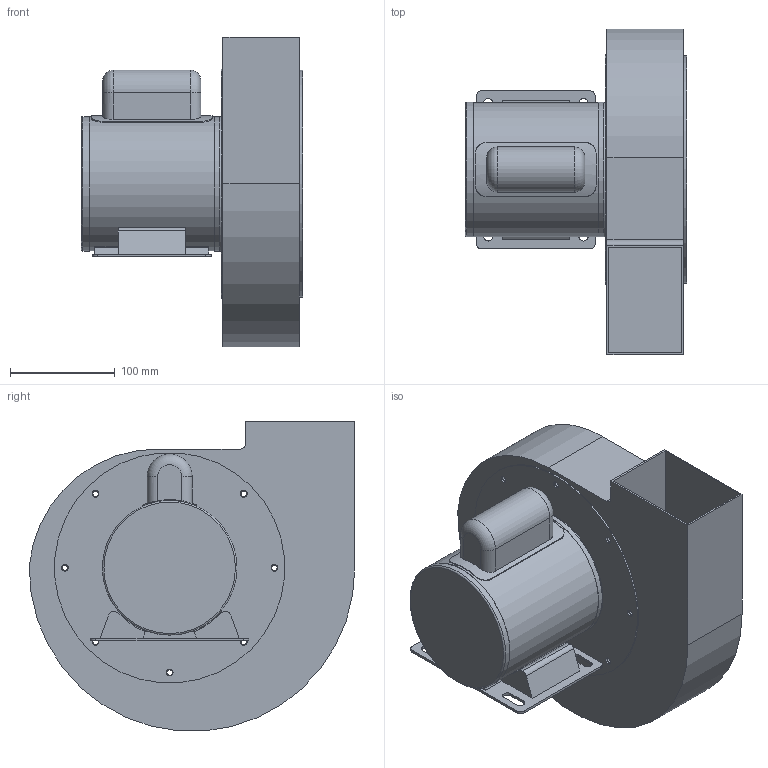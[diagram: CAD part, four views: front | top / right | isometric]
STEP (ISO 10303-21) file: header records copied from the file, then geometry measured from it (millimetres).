
FILE_DESCRIPTION(/* description */ ('Unknown'),/* implementation_level */ '2;1');
FILE_NAME(/* name */ 'CY180AN2P-EG 型錄',/* time_stamp */ '2026-05-14T13:54:06+08:00',/* author */ ('Unknown'),/* organization */ ('Unknown'),/* preprocessor_version */ 'ST-DEVELOPER v20',/* originating_system */ 'Solid Edge',/* authorisation */ 'Unknown');
FILE_SCHEMA (('AUTOMOTIVE_DESIGN {1 0 10303 214 3 1 1}'));
Length unit declared in the file: millimetre
Products named in the file (4): CY180AN2P-EG «¬merged_ap_schema.nam; CY180N-01-2+8; CY180N-06V; JM180AN2P-EG
Assembly tree (3 placements, depth 2):
  CY180AN2P-EG «¬merged_ap_schema.nam
    CY180N-01-2+8
    CY180N-06V
    JM180AN2P-EG
Bounding box: 211.1 x 310.75 x 295.63 mm (x, y, z)
Volume: 5978407.3 mm3; surface area: 466692.4 mm2
Topology: 5 solids, 5 shells, 168 faces, 439 edges, 292 vertices
Faces by surface type: cylinder 92, plane 71, torus 4, cone 1
Full cylindrical faces by diameter (mm): 5.2 x8, 6.5 x8, 13.6 x1, 14 x1, 15 x1, 100 x1, 128.1 x1, 128.5 x2, 130 x1, 178 x1, 217 x1, 220 x1
Entity records: 5277 total; most frequent: CARTESIAN_POINT 930, DIRECTION 912, ORIENTED_EDGE 800, EDGE_CURVE 400, AXIS2_PLACEMENT_3D 353, VERTEX_POINT 283, EDGE_LOOP 269, FACE_BOUND 269
